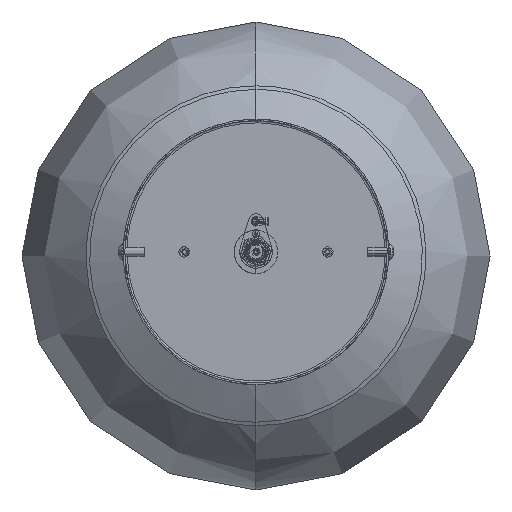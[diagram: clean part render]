
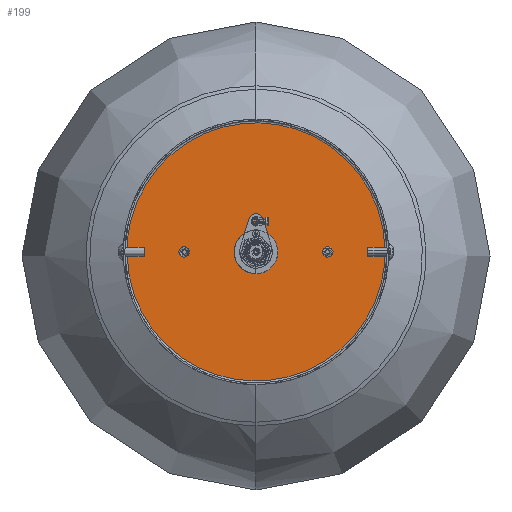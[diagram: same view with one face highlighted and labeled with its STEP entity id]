
A CAD part, top view. The second image highlights one B-rep face of the part: STEP entity #199.
In plain terms, the highlighted planar face has unit normal (0, 0, 1).
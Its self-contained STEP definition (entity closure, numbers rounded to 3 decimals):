
#136=FACE_BOUND('',#1472,.T.);
#137=FACE_BOUND('',#1473,.T.);
#138=FACE_BOUND('',#1474,.T.);
#199=ADVANCED_FACE('',(#832,#136,#137,#138),#9372,.T.);
#832=FACE_OUTER_BOUND('',#1471,.T.);
#1471=EDGE_LOOP('',(#2223,#2224));
#1472=EDGE_LOOP('',(#2225,#2226));
#1473=EDGE_LOOP('',(#2227,#2228));
#1474=EDGE_LOOP('',(#2229,#2230));
#2223=ORIENTED_EDGE('',*,*,#5318,.T.);
#2224=ORIENTED_EDGE('',*,*,#5285,.T.);
#2225=ORIENTED_EDGE('',*,*,#5269,.T.);
#2226=ORIENTED_EDGE('',*,*,#5325,.T.);
#2227=ORIENTED_EDGE('',*,*,#5279,.T.);
#2228=ORIENTED_EDGE('',*,*,#5322,.T.);
#2229=ORIENTED_EDGE('',*,*,#5283,.T.);
#2230=ORIENTED_EDGE('',*,*,#5320,.T.);
#5269=EDGE_CURVE('',#8401,#8402,#7718,.T.);
#5279=EDGE_CURVE('',#8418,#8417,#7721,.T.);
#5283=EDGE_CURVE('',#8422,#8421,#7723,.T.);
#5285=EDGE_CURVE('',#8424,#8425,#7724,.T.);
#5318=EDGE_CURVE('',#8425,#8424,#7741,.T.);
#5320=EDGE_CURVE('',#8421,#8422,#7743,.T.);
#5322=EDGE_CURVE('',#8417,#8418,#7745,.T.);
#5325=EDGE_CURVE('',#8402,#8401,#7746,.T.);
#7718=(
BOUNDED_CURVE()
B_SPLINE_CURVE(2,(#11022,#11023,#11024,#11025,#11026),.UNSPECIFIED.,.F.,
 .F.)
B_SPLINE_CURVE_WITH_KNOTS((3,2,3),(-18.85,-9.425,
0.),.UNSPECIFIED.)
CURVE()
GEOMETRIC_REPRESENTATION_ITEM()
RATIONAL_B_SPLINE_CURVE((1.,0.707,1.,0.707,1.))
REPRESENTATION_ITEM('')
);
#7721=(
BOUNDED_CURVE()
B_SPLINE_CURVE(2,(#11051,#11052,#11053,#11054,#11055),.UNSPECIFIED.,.F.,
 .F.)
B_SPLINE_CURVE_WITH_KNOTS((3,2,3),(-7.697,-3.848,0.),
 .UNSPECIFIED.)
CURVE()
GEOMETRIC_REPRESENTATION_ITEM()
RATIONAL_B_SPLINE_CURVE((1.,0.707,1.,0.707,1.))
REPRESENTATION_ITEM('')
);
#7723=(
BOUNDED_CURVE()
B_SPLINE_CURVE(2,(#11065,#11066,#11067,#11068,#11069),.UNSPECIFIED.,.F.,
 .F.)
B_SPLINE_CURVE_WITH_KNOTS((3,2,3),(-7.697,-3.848,0.),
 .UNSPECIFIED.)
CURVE()
GEOMETRIC_REPRESENTATION_ITEM()
RATIONAL_B_SPLINE_CURVE((1.,0.707,1.,0.707,1.))
REPRESENTATION_ITEM('')
);
#7724=(
BOUNDED_CURVE()
B_SPLINE_CURVE(2,(#11072,#11073,#11074,#11075,#11076),.UNSPECIFIED.,.F.,
 .F.)
B_SPLINE_CURVE_WITH_KNOTS((3,2,3),(-186.296,-93.148,
0.),.UNSPECIFIED.)
CURVE()
GEOMETRIC_REPRESENTATION_ITEM()
RATIONAL_B_SPLINE_CURVE((1.,0.707,1.,0.707,1.))
REPRESENTATION_ITEM('')
);
#7741=(
BOUNDED_CURVE()
B_SPLINE_CURVE(2,(#11365,#11366,#11367,#11368,#11369),.UNSPECIFIED.,.F.,
 .F.)
B_SPLINE_CURVE_WITH_KNOTS((3,2,3),(-186.296,-93.148,
0.),.UNSPECIFIED.)
CURVE()
GEOMETRIC_REPRESENTATION_ITEM()
RATIONAL_B_SPLINE_CURVE((1.,0.707,1.,0.707,1.))
REPRESENTATION_ITEM('')
);
#7743=(
BOUNDED_CURVE()
B_SPLINE_CURVE(2,(#11375,#11376,#11377,#11378,#11379),.UNSPECIFIED.,.F.,
 .F.)
B_SPLINE_CURVE_WITH_KNOTS((3,2,3),(-7.697,-3.848,0.),
 .UNSPECIFIED.)
CURVE()
GEOMETRIC_REPRESENTATION_ITEM()
RATIONAL_B_SPLINE_CURVE((1.,0.707,1.,0.707,1.))
REPRESENTATION_ITEM('')
);
#7745=(
BOUNDED_CURVE()
B_SPLINE_CURVE(2,(#11385,#11386,#11387,#11388,#11389),.UNSPECIFIED.,.F.,
 .F.)
B_SPLINE_CURVE_WITH_KNOTS((3,2,3),(-7.697,-3.848,0.),
 .UNSPECIFIED.)
CURVE()
GEOMETRIC_REPRESENTATION_ITEM()
RATIONAL_B_SPLINE_CURVE((1.,0.707,1.,0.707,1.))
REPRESENTATION_ITEM('')
);
#7746=(
BOUNDED_CURVE()
B_SPLINE_CURVE(2,(#11426,#11427,#11428,#11429,#11430),.UNSPECIFIED.,.F.,
 .F.)
B_SPLINE_CURVE_WITH_KNOTS((3,2,3),(-18.85,-9.425,
0.),.UNSPECIFIED.)
CURVE()
GEOMETRIC_REPRESENTATION_ITEM()
RATIONAL_B_SPLINE_CURVE((1.,0.707,1.,0.707,1.))
REPRESENTATION_ITEM('')
);
#8401=VERTEX_POINT('',#10984);
#8402=VERTEX_POINT('',#10985);
#8417=VERTEX_POINT('',#11000);
#8418=VERTEX_POINT('',#11001);
#8421=VERTEX_POINT('',#11004);
#8422=VERTEX_POINT('',#11005);
#8424=VERTEX_POINT('',#11007);
#8425=VERTEX_POINT('',#11008);
#9372=PLANE('',#9973);
#9973=AXIS2_PLACEMENT_3D('',#10893,#10190,$);
#10190=DIRECTION('',(0.,0.,1.));
#10893=CARTESIAN_POINT('',(-71.16,-664.322,563.862));
#10984=CARTESIAN_POINT('',(0.,-599.162,563.862));
#10985=CARTESIAN_POINT('',(0.,-587.162,563.862));
#11000=CARTESIAN_POINT('',(-33.,-590.712,563.862));
#11001=CARTESIAN_POINT('',(-33.,-595.612,563.862));
#11004=CARTESIAN_POINT('',(33.,-590.712,563.862));
#11005=CARTESIAN_POINT('',(33.,-595.612,563.862));
#11007=CARTESIAN_POINT('',(-59.3,-593.162,563.862));
#11008=CARTESIAN_POINT('',(59.3,-593.162,563.862));
#11022=CARTESIAN_POINT('',(0.,-599.162,563.862));
#11023=CARTESIAN_POINT('',(-6.,-599.162,563.862));
#11024=CARTESIAN_POINT('',(-6.,-593.162,563.862));
#11025=CARTESIAN_POINT('',(-6.,-587.162,563.862));
#11026=CARTESIAN_POINT('',(0.,-587.162,563.862));
#11051=CARTESIAN_POINT('',(-33.,-595.612,563.862));
#11052=CARTESIAN_POINT('',(-35.45,-595.612,563.862));
#11053=CARTESIAN_POINT('',(-35.45,-593.162,563.862));
#11054=CARTESIAN_POINT('',(-35.45,-590.712,563.862));
#11055=CARTESIAN_POINT('',(-33.,-590.712,563.862));
#11065=CARTESIAN_POINT('',(33.,-595.612,563.862));
#11066=CARTESIAN_POINT('',(30.55,-595.612,563.862));
#11067=CARTESIAN_POINT('',(30.55,-593.162,563.862));
#11068=CARTESIAN_POINT('',(30.55,-590.712,563.862));
#11069=CARTESIAN_POINT('',(33.,-590.712,563.862));
#11072=CARTESIAN_POINT('',(-59.3,-593.162,563.862));
#11073=CARTESIAN_POINT('',(-59.3,-652.462,563.862));
#11074=CARTESIAN_POINT('',(0.,-652.462,563.862));
#11075=CARTESIAN_POINT('',(59.3,-652.462,563.862));
#11076=CARTESIAN_POINT('',(59.3,-593.162,563.862));
#11365=CARTESIAN_POINT('',(59.3,-593.162,563.862));
#11366=CARTESIAN_POINT('',(59.3,-533.862,563.862));
#11367=CARTESIAN_POINT('',(0.,-533.862,563.862));
#11368=CARTESIAN_POINT('',(-59.3,-533.862,563.862));
#11369=CARTESIAN_POINT('',(-59.3,-593.162,563.862));
#11375=CARTESIAN_POINT('',(33.,-590.712,563.862));
#11376=CARTESIAN_POINT('',(35.45,-590.712,563.862));
#11377=CARTESIAN_POINT('',(35.45,-593.162,563.862));
#11378=CARTESIAN_POINT('',(35.45,-595.612,563.862));
#11379=CARTESIAN_POINT('',(33.,-595.612,563.862));
#11385=CARTESIAN_POINT('',(-33.,-590.712,563.862));
#11386=CARTESIAN_POINT('',(-30.55,-590.712,563.862));
#11387=CARTESIAN_POINT('',(-30.55,-593.162,563.862));
#11388=CARTESIAN_POINT('',(-30.55,-595.612,563.862));
#11389=CARTESIAN_POINT('',(-33.,-595.612,563.862));
#11426=CARTESIAN_POINT('',(0.,-587.162,563.862));
#11427=CARTESIAN_POINT('',(6.,-587.162,563.862));
#11428=CARTESIAN_POINT('',(6.,-593.162,563.862));
#11429=CARTESIAN_POINT('',(6.,-599.162,563.862));
#11430=CARTESIAN_POINT('',(0.,-599.162,563.862));
